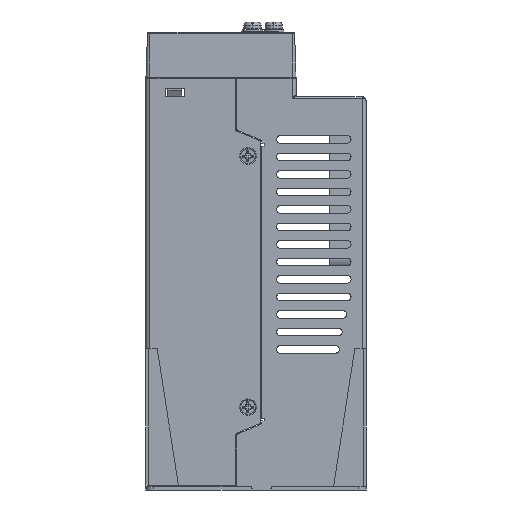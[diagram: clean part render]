
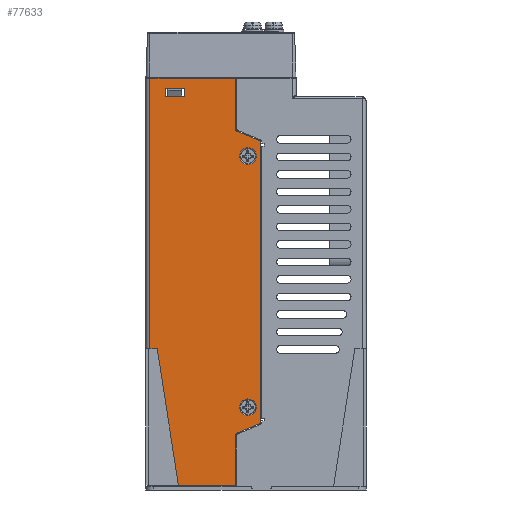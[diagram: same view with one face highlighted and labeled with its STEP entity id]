
A CAD part, left-side view. The second image highlights one B-rep face of the part: STEP entity #77633.
In plain terms, the highlighted planar face has unit normal (-1, 0, 0).
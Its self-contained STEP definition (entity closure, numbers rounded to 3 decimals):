
#71892=DIRECTION('',(0.,0.,1.));
#71893=VECTOR('',#71892,108.2);
#71894=CARTESIAN_POINT('',(-80.,1.6,0.));
#71895=LINE('',#71894,#71893);
#71900=CARTESIAN_POINT('',(-80.,44.8,25.748));
#71901=DIRECTION('',(1.,0.,0.));
#71902=DIRECTION('',(0.,0.371,-0.928));
#71903=AXIS2_PLACEMENT_3D('',#71900,#71901,#71902);
#71905=DIRECTION('',(0.,0.,1.));
#71906=VECTOR('',#71905,111.704);
#71907=CARTESIAN_POINT('',(-80.,45.8,25.748));
#71908=LINE('',#71907,#71906);
#71909=CARTESIAN_POINT('',(-80.,44.8,137.452));
#71910=DIRECTION('',(1.,0.,0.));
#71911=DIRECTION('',(0.,1.,0.));
#71912=AXIS2_PLACEMENT_3D('',#71909,#71910,#71911);
#71914=DIRECTION('',(0.,-0.928,0.371));
#71915=VECTOR('',#71914,9.416);
#71916=CARTESIAN_POINT('',(-80.,45.171,138.381));
#71917=LINE('',#71916,#71915);
#71918=CARTESIAN_POINT('',(-80.,36.8,142.806));
#71919=DIRECTION('',(-1.,0.,0.));
#71920=DIRECTION('',(0.,-0.371,-0.928));
#71921=AXIS2_PLACEMENT_3D('',#71918,#71919,#71920);
#71923=DIRECTION('',(0.,0.,1.));
#71924=VECTOR('',#71923,19.994);
#71925=CARTESIAN_POINT('',(-80.,35.8,142.806));
#71926=LINE('',#71925,#71924);
#71927=DIRECTION('',(0.,-1.,0.));
#71928=VECTOR('',#71927,22.8);
#71929=CARTESIAN_POINT('',(-80.,35.8,162.8));
#71930=LINE('',#71929,#71928);
#71931=DIRECTION('',(0.,-0.154,-0.988));
#71932=VECTOR('',#71931,55.258);
#71933=CARTESIAN_POINT('',(-80.,13.,162.8));
#71934=LINE('',#71933,#71932);
#71935=DIRECTION('',(0.,-1.,0.));
#71936=VECTOR('',#71935,2.9);
#71937=CARTESIAN_POINT('',(-80.,4.5,108.2));
#71938=LINE('',#71937,#71936);
#71939=DIRECTION('',(0.,1.,0.));
#71940=VECTOR('',#71939,34.2);
#71941=CARTESIAN_POINT('',(-80.,1.6,0.));
#71942=LINE('',#71941,#71940);
#71943=DIRECTION('',(0.,0.,1.));
#71944=VECTOR('',#71943,20.394);
#71945=CARTESIAN_POINT('',(-80.,35.8,0.));
#71946=LINE('',#71945,#71944);
#71947=CARTESIAN_POINT('',(-80.,36.8,20.394));
#71948=DIRECTION('',(-1.,0.,0.));
#71949=DIRECTION('',(0.,-1.,0.));
#71950=AXIS2_PLACEMENT_3D('',#71947,#71948,#71949);
#71952=DIRECTION('',(0.,0.928,0.371));
#71953=VECTOR('',#71952,9.416);
#71954=CARTESIAN_POINT('',(-80.,36.429,21.322));
#71955=LINE('',#71954,#71953);
#71956=CARTESIAN_POINT('',(-80.,40.8,131.6));
#71957=DIRECTION('',(-1.,0.,0.));
#71958=DIRECTION('',(0.,0.,-1.));
#71959=AXIS2_PLACEMENT_3D('',#71956,#71957,#71958);
#71961=CARTESIAN_POINT('',(-80.,40.8,131.6));
#71962=DIRECTION('',(-1.,0.,0.));
#71963=DIRECTION('',(0.,0.,1.));
#71964=AXIS2_PLACEMENT_3D('',#71961,#71962,#71963);
#71966=CARTESIAN_POINT('',(-80.,40.8,31.2));
#71967=DIRECTION('',(-1.,0.,0.));
#71968=DIRECTION('',(0.,0.,-1.));
#71969=AXIS2_PLACEMENT_3D('',#71966,#71967,#71968);
#71971=CARTESIAN_POINT('',(-80.,40.8,31.2));
#71972=DIRECTION('',(-1.,0.,0.));
#71973=DIRECTION('',(0.,0.,1.));
#71974=AXIS2_PLACEMENT_3D('',#71971,#71972,#71973);
#71976=DIRECTION('',(0.,0.,-1.));
#71977=VECTOR('',#71976,3.5);
#71978=CARTESIAN_POINT('',(-80.,15.3,7.5));
#71979=LINE('',#71978,#71977);
#71980=DIRECTION('',(0.,-1.,0.));
#71981=VECTOR('',#71980,7.5);
#71982=CARTESIAN_POINT('',(-80.,15.3,4.));
#71983=LINE('',#71982,#71981);
#71984=DIRECTION('',(0.,0.,1.));
#71985=VECTOR('',#71984,3.5);
#71986=CARTESIAN_POINT('',(-80.,7.8,4.));
#71987=LINE('',#71986,#71985);
#71988=DIRECTION('',(0.,1.,0.));
#71989=VECTOR('',#71988,7.5);
#71990=CARTESIAN_POINT('',(-80.,7.8,7.5));
#71991=LINE('',#71990,#71989);
#72951=CARTESIAN_POINT('',(-80.,35.8,0.));
#72952=VERTEX_POINT('',#72951);
#72953=CARTESIAN_POINT('',(-80.,1.6,0.));
#72954=VERTEX_POINT('',#72953);
#73779=CARTESIAN_POINT('',(-80.,1.6,108.2));
#73780=VERTEX_POINT('',#73779);
#73781=CARTESIAN_POINT('',(-80.,4.5,108.2));
#73782=VERTEX_POINT('',#73781);
#74061=CARTESIAN_POINT('',(-80.,7.8,7.5));
#74062=VERTEX_POINT('',#74061);
#74063=CARTESIAN_POINT('',(-80.,7.8,4.));
#74064=VERTEX_POINT('',#74063);
#74067=CARTESIAN_POINT('',(-80.,15.3,4.));
#74068=VERTEX_POINT('',#74067);
#74101=CARTESIAN_POINT('',(-80.,13.,162.8));
#74102=VERTEX_POINT('',#74101);
#74103=CARTESIAN_POINT('',(-80.,45.171,24.819));
#74104=CARTESIAN_POINT('',(-80.,45.8,25.748));
#74105=VERTEX_POINT('',#74103);
#74106=VERTEX_POINT('',#74104);
#74107=CARTESIAN_POINT('',(-80.,45.8,137.452));
#74108=VERTEX_POINT('',#74107);
#74109=CARTESIAN_POINT('',(-80.,45.171,138.381));
#74110=VERTEX_POINT('',#74109);
#74111=CARTESIAN_POINT('',(-80.,36.429,141.878));
#74112=VERTEX_POINT('',#74111);
#74113=CARTESIAN_POINT('',(-80.,35.8,142.806));
#74114=VERTEX_POINT('',#74113);
#74115=CARTESIAN_POINT('',(-80.,35.8,162.8));
#74116=VERTEX_POINT('',#74115);
#74117=CARTESIAN_POINT('',(-80.,35.8,20.394));
#74118=VERTEX_POINT('',#74117);
#74119=CARTESIAN_POINT('',(-80.,36.429,21.322));
#74120=VERTEX_POINT('',#74119);
#74121=CARTESIAN_POINT('',(-80.,40.8,128.3));
#74122=CARTESIAN_POINT('',(-80.,40.8,134.9));
#74123=VERTEX_POINT('',#74121);
#74124=VERTEX_POINT('',#74122);
#74125=CARTESIAN_POINT('',(-80.,40.8,27.9));
#74126=CARTESIAN_POINT('',(-80.,40.8,34.5));
#74127=VERTEX_POINT('',#74125);
#74128=VERTEX_POINT('',#74126);
#74129=CARTESIAN_POINT('',(-80.,15.3,7.5));
#74130=VERTEX_POINT('',#74129);
#77578=CARTESIAN_POINT('',(-80.,30.,0.));
#77579=DIRECTION('',(-1.,0.,0.));
#77580=DIRECTION('',(0.,-1.,0.));
#77581=AXIS2_PLACEMENT_3D('',#77578,#77579,#77580);
#77582=PLANE('',#77581);
#77584=ORIENTED_EDGE('',*,*,#77583,.T.);
#77586=ORIENTED_EDGE('',*,*,#77585,.T.);
#77588=ORIENTED_EDGE('',*,*,#77587,.T.);
#77590=ORIENTED_EDGE('',*,*,#77589,.T.);
#77592=ORIENTED_EDGE('',*,*,#77591,.T.);
#77594=ORIENTED_EDGE('',*,*,#77593,.T.);
#77596=ORIENTED_EDGE('',*,*,#77595,.T.);
#77598=ORIENTED_EDGE('',*,*,#77597,.T.);
#77600=ORIENTED_EDGE('',*,*,#77599,.T.);
#77601=ORIENTED_EDGE('',*,*,#77570,.F.);
#77602=ORIENTED_EDGE('',*,*,#74420,.T.);
#77604=ORIENTED_EDGE('',*,*,#77603,.T.);
#77606=ORIENTED_EDGE('',*,*,#77605,.T.);
#77608=ORIENTED_EDGE('',*,*,#77607,.T.);
#77609=EDGE_LOOP('',(#77584,#77586,#77588,#77590,#77592,#77594,#77596,#77598,
#77600,#77601,#77602,#77604,#77606,#77608));
#77610=FACE_OUTER_BOUND('',#77609,.F.);
#77612=ORIENTED_EDGE('',*,*,#77611,.T.);
#77614=ORIENTED_EDGE('',*,*,#77613,.T.);
#77615=EDGE_LOOP('',(#77612,#77614));
#77616=FACE_BOUND('',#77615,.F.);
#77618=ORIENTED_EDGE('',*,*,#77617,.T.);
#77620=ORIENTED_EDGE('',*,*,#77619,.T.);
#77621=EDGE_LOOP('',(#77618,#77620));
#77622=FACE_BOUND('',#77621,.F.);
#77624=ORIENTED_EDGE('',*,*,#77623,.T.);
#77626=ORIENTED_EDGE('',*,*,#77625,.T.);
#77628=ORIENTED_EDGE('',*,*,#77627,.T.);
#77630=ORIENTED_EDGE('',*,*,#77629,.T.);
#77631=EDGE_LOOP('',(#77624,#77626,#77628,#77630));
#77632=FACE_BOUND('',#77631,.F.);
#77633=ADVANCED_FACE('',(#77610,#77616,#77622,#77632),#77582,.T.);
#71904=CIRCLE('',#71903,1.);
#71913=CIRCLE('',#71912,1.);
#71922=CIRCLE('',#71921,1.);
#71951=CIRCLE('',#71950,1.);
#71960=CIRCLE('',#71959,3.3);
#71965=CIRCLE('',#71964,3.3);
#71970=CIRCLE('',#71969,3.3);
#71975=CIRCLE('',#71974,3.3);
#74420=EDGE_CURVE('',#72954,#72952,#71942,.T.);
#77570=EDGE_CURVE('',#72954,#73780,#71895,.T.);
#77583=EDGE_CURVE('',#74105,#74106,#71904,.T.);
#77585=EDGE_CURVE('',#74106,#74108,#71908,.T.);
#77587=EDGE_CURVE('',#74108,#74110,#71913,.T.);
#77589=EDGE_CURVE('',#74110,#74112,#71917,.T.);
#77591=EDGE_CURVE('',#74112,#74114,#71922,.T.);
#77593=EDGE_CURVE('',#74114,#74116,#71926,.T.);
#77595=EDGE_CURVE('',#74116,#74102,#71930,.T.);
#77597=EDGE_CURVE('',#74102,#73782,#71934,.T.);
#77599=EDGE_CURVE('',#73782,#73780,#71938,.T.);
#77603=EDGE_CURVE('',#72952,#74118,#71946,.T.);
#77605=EDGE_CURVE('',#74118,#74120,#71951,.T.);
#77607=EDGE_CURVE('',#74120,#74105,#71955,.T.);
#77611=EDGE_CURVE('',#74123,#74124,#71960,.T.);
#77613=EDGE_CURVE('',#74124,#74123,#71965,.T.);
#77617=EDGE_CURVE('',#74127,#74128,#71970,.T.);
#77619=EDGE_CURVE('',#74128,#74127,#71975,.T.);
#77623=EDGE_CURVE('',#74130,#74068,#71979,.T.);
#77625=EDGE_CURVE('',#74068,#74064,#71983,.T.);
#77627=EDGE_CURVE('',#74064,#74062,#71987,.T.);
#77629=EDGE_CURVE('',#74062,#74130,#71991,.T.);
